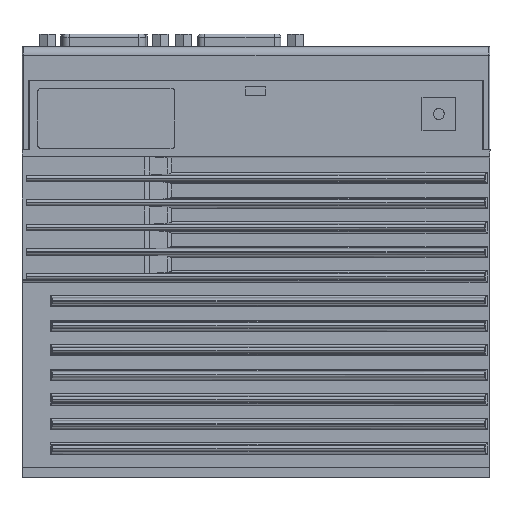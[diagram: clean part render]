
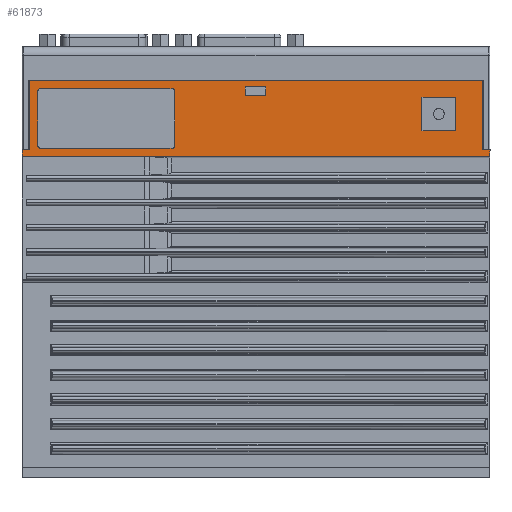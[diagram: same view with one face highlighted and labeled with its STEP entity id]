
A CAD part, front view. The second image highlights one B-rep face of the part: STEP entity #61873.
In plain terms, the highlighted planar face has unit normal (0, -1, 0) as drawn and (1, 0, 0) by its records, which use the part's own axes.
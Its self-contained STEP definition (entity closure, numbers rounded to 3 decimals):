
#57564=CARTESIAN_POINT('',(6.7,28.2,94.16));
#57565=VERTEX_POINT('',#57564);
#57572=CARTESIAN_POINT('',(6.7,162.741,94.16));
#57573=VERTEX_POINT('',#57572);
#57574=CARTESIAN_POINT('',(6.7,162.741,94.16));
#57575=DIRECTION('',(0.0,-1.0,0.0));
#57576=VECTOR('',#57575,134.541);
#57577=LINE('',#57574,#57576);
#57578=EDGE_CURVE('',#57573,#57565,#57577,.T.);
#57885=CARTESIAN_POINT('',(6.7,164.9,73.517));
#57886=VERTEX_POINT('',#57885);
#57893=CARTESIAN_POINT('',(6.7,164.9,71.569));
#57894=VERTEX_POINT('',#57893);
#57895=CARTESIAN_POINT('',(6.7,164.9,71.569));
#57896=DIRECTION('',(0.0,0.0,1.0));
#57897=VECTOR('',#57896,1.948);
#57898=LINE('',#57895,#57897);
#57899=EDGE_CURVE('',#57894,#57886,#57898,.T.);
#58691=CARTESIAN_POINT('',(6.7,25.9,71.569));
#58692=VERTEX_POINT('',#58691);
#58699=CARTESIAN_POINT('',(6.7,25.9,73.539));
#58700=VERTEX_POINT('',#58699);
#58701=CARTESIAN_POINT('',(6.7,25.9,73.539));
#58702=DIRECTION('',(0.0,0.0,-1.0));
#58703=VECTOR('',#58702,1.969);
#58704=LINE('',#58701,#58703);
#58705=EDGE_CURVE('',#58700,#58692,#58704,.T.);
#59587=CARTESIAN_POINT('',(6.7,164.9,71.569));
#59588=DIRECTION('',(0.0,-1.0,0.0));
#59589=VECTOR('',#59588,139.);
#59590=LINE('',#59587,#59589);
#59591=EDGE_CURVE('',#57894,#58692,#59590,.T.);
#61696=CARTESIAN_POINT('',(6.7,0.0,0.0));
#61697=DIRECTION('',(1.0,0.0,0.0));
#61698=DIRECTION('',(0.0,0.0,-1.0));
#61699=AXIS2_PLACEMENT_3D('',#61696,#61697,#61698);
#61700=PLANE('',#61699);
#61701=CARTESIAN_POINT('',(6.7,28.2,73.538));
#61702=VERTEX_POINT('',#61701);
#61703=CARTESIAN_POINT('',(6.7,25.9,73.539));
#61704=DIRECTION('',(0.0,1.,0.));
#61705=VECTOR('',#61704,2.3);
#61706=LINE('',#61703,#61705);
#61707=EDGE_CURVE('',#58700,#61702,#61706,.T.);
#61708=ORIENTED_EDGE('',*,*,#61707,.F.);
#61709=ORIENTED_EDGE('',*,*,#58705,.T.);
#61710=ORIENTED_EDGE('',*,*,#59591,.F.);
#61711=ORIENTED_EDGE('',*,*,#57899,.T.);
#61712=CARTESIAN_POINT('',(6.7,162.741,73.516));
#61713=VERTEX_POINT('',#61712);
#61714=CARTESIAN_POINT('',(6.7,162.741,73.516));
#61715=DIRECTION('',(0.0,1.,0.));
#61716=VECTOR('',#61715,2.159);
#61717=LINE('',#61714,#61716);
#61718=EDGE_CURVE('',#61713,#57886,#61717,.T.);
#61719=ORIENTED_EDGE('',*,*,#61718,.F.);
#61720=CARTESIAN_POINT('',(6.7,162.741,94.16));
#61721=DIRECTION('',(0.0,0.0,-1.0));
#61722=VECTOR('',#61721,20.644);
#61723=LINE('',#61720,#61722);
#61724=EDGE_CURVE('',#57573,#61713,#61723,.T.);
#61725=ORIENTED_EDGE('',*,*,#61724,.F.);
#61726=ORIENTED_EDGE('',*,*,#57578,.T.);
#61727=CARTESIAN_POINT('',(6.7,28.2,94.16));
#61728=DIRECTION('',(0.0,0.0,-1.0));
#61729=VECTOR('',#61728,20.622);
#61730=LINE('',#61727,#61729);
#61731=EDGE_CURVE('',#57565,#61702,#61730,.T.);
#61732=ORIENTED_EDGE('',*,*,#61731,.T.);
#61733=EDGE_LOOP('',(#61708,#61709,#61710,#61711,#61719,#61725,#61726,#61732));
#61734=FACE_OUTER_BOUND('',#61733,.T.);
#61735=CARTESIAN_POINT('',(6.7,154.7,79.16));
#61736=VERTEX_POINT('',#61735);
#61737=CARTESIAN_POINT('',(6.7,154.7,89.16));
#61738=VERTEX_POINT('',#61737);
#61739=CARTESIAN_POINT('',(6.7,154.7,79.16));
#61740=DIRECTION('',(0.0,0.0,1.0));
#61741=VECTOR('',#61740,10.);
#61742=LINE('',#61739,#61741);
#61743=EDGE_CURVE('',#61736,#61738,#61742,.T.);
#61744=ORIENTED_EDGE('',*,*,#61743,.F.);
#61745=CARTESIAN_POINT('',(6.7,144.7,79.16));
#61746=VERTEX_POINT('',#61745);
#61747=CARTESIAN_POINT('',(6.7,144.7,79.16));
#61748=DIRECTION('',(0.0,1.0,0.0));
#61749=VECTOR('',#61748,10.0);
#61750=LINE('',#61747,#61749);
#61751=EDGE_CURVE('',#61746,#61736,#61750,.T.);
#61752=ORIENTED_EDGE('',*,*,#61751,.F.);
#61753=CARTESIAN_POINT('',(6.7,144.7,89.16));
#61754=VERTEX_POINT('',#61753);
#61755=CARTESIAN_POINT('',(6.7,144.7,89.16));
#61756=DIRECTION('',(0.0,0.0,-1.0));
#61757=VECTOR('',#61756,10.);
#61758=LINE('',#61755,#61757);
#61759=EDGE_CURVE('',#61754,#61746,#61758,.T.);
#61760=ORIENTED_EDGE('',*,*,#61759,.F.);
#61761=CARTESIAN_POINT('',(6.7,154.7,89.16));
#61762=DIRECTION('',(0.0,-1.0,0.0));
#61763=VECTOR('',#61762,10.0);
#61764=LINE('',#61761,#61763);
#61765=EDGE_CURVE('',#61738,#61754,#61764,.T.);
#61766=ORIENTED_EDGE('',*,*,#61765,.F.);
#61767=EDGE_LOOP('',(#61744,#61752,#61760,#61766));
#61768=FACE_BOUND('',#61767,.T.);
#61769=CARTESIAN_POINT('',(6.7,98.25,89.76));
#61770=VERTEX_POINT('',#61769);
#61771=CARTESIAN_POINT('',(6.7,98.25,92.16));
#61772=VERTEX_POINT('',#61771);
#61773=CARTESIAN_POINT('',(6.7,98.25,89.76));
#61774=DIRECTION('',(0.0,0.0,1.0));
#61775=VECTOR('',#61774,2.4);
#61776=LINE('',#61773,#61775);
#61777=EDGE_CURVE('',#61770,#61772,#61776,.T.);
#61778=ORIENTED_EDGE('',*,*,#61777,.F.);
#61779=CARTESIAN_POINT('',(6.7,92.25,89.76));
#61780=VERTEX_POINT('',#61779);
#61781=CARTESIAN_POINT('',(6.7,92.25,89.76));
#61782=DIRECTION('',(0.0,1.0,0.0));
#61783=VECTOR('',#61782,6.);
#61784=LINE('',#61781,#61783);
#61785=EDGE_CURVE('',#61780,#61770,#61784,.T.);
#61786=ORIENTED_EDGE('',*,*,#61785,.F.);
#61787=CARTESIAN_POINT('',(6.7,92.25,92.16));
#61788=VERTEX_POINT('',#61787);
#61789=CARTESIAN_POINT('',(6.7,92.25,92.16));
#61790=DIRECTION('',(0.0,0.0,-1.0));
#61791=VECTOR('',#61790,2.4);
#61792=LINE('',#61789,#61791);
#61793=EDGE_CURVE('',#61788,#61780,#61792,.T.);
#61794=ORIENTED_EDGE('',*,*,#61793,.F.);
#61795=CARTESIAN_POINT('',(6.7,98.25,92.16));
#61796=DIRECTION('',(0.0,-1.0,0.0));
#61797=VECTOR('',#61796,6.);
#61798=LINE('',#61795,#61797);
#61799=EDGE_CURVE('',#61772,#61788,#61798,.T.);
#61800=ORIENTED_EDGE('',*,*,#61799,.F.);
#61801=EDGE_LOOP('',(#61778,#61786,#61794,#61800));
#61802=FACE_BOUND('',#61801,.T.);
#61803=CARTESIAN_POINT('',(6.7,31.15,91.61));
#61804=VERTEX_POINT('',#61803);
#61805=CARTESIAN_POINT('',(6.7,30.65,91.11));
#61806=VERTEX_POINT('',#61805);
#61807=CARTESIAN_POINT('',(6.7,31.15,91.11));
#61808=DIRECTION('',(1.0,0.0,0.0));
#61809=DIRECTION('',(0.0,0.0,-1.0));
#61810=AXIS2_PLACEMENT_3D('',#61807,#61808,#61809);
#61811=CIRCLE('',#61810,0.5);
#61812=EDGE_CURVE('',#61804,#61806,#61811,.T.);
#61813=ORIENTED_EDGE('',*,*,#61812,.F.);
#61814=CARTESIAN_POINT('',(6.7,70.75,91.61));
#61815=VERTEX_POINT('',#61814);
#61816=CARTESIAN_POINT('',(6.7,70.75,91.61));
#61817=DIRECTION('',(0.0,-1.0,0.0));
#61818=VECTOR('',#61817,39.6);
#61819=LINE('',#61816,#61818);
#61820=EDGE_CURVE('',#61815,#61804,#61819,.T.);
#61821=ORIENTED_EDGE('',*,*,#61820,.F.);
#61822=CARTESIAN_POINT('',(6.7,71.25,91.11));
#61823=VERTEX_POINT('',#61822);
#61824=CARTESIAN_POINT('',(6.7,70.75,91.11));
#61825=DIRECTION('',(1.0,0.0,0.0));
#61826=DIRECTION('',(0.0,0.0,1.0));
#61827=AXIS2_PLACEMENT_3D('',#61824,#61825,#61826);
#61828=CIRCLE('',#61827,0.5);
#61829=EDGE_CURVE('',#61823,#61815,#61828,.T.);
#61830=ORIENTED_EDGE('',*,*,#61829,.F.);
#61831=CARTESIAN_POINT('',(6.7,71.25,74.51));
#61832=VERTEX_POINT('',#61831);
#61833=CARTESIAN_POINT('',(6.7,71.25,74.51));
#61834=DIRECTION('',(0.0,0.0,1.0));
#61835=VECTOR('',#61834,16.6);
#61836=LINE('',#61833,#61835);
#61837=EDGE_CURVE('',#61832,#61823,#61836,.T.);
#61838=ORIENTED_EDGE('',*,*,#61837,.F.);
#61839=CARTESIAN_POINT('',(6.7,70.75,74.01));
#61840=VERTEX_POINT('',#61839);
#61841=CARTESIAN_POINT('',(6.7,70.75,74.51));
#61842=DIRECTION('',(1.0,0.0,0.0));
#61843=DIRECTION('',(0.0,0.0,-1.0));
#61844=AXIS2_PLACEMENT_3D('',#61841,#61842,#61843);
#61845=CIRCLE('',#61844,0.5);
#61846=EDGE_CURVE('',#61840,#61832,#61845,.T.);
#61847=ORIENTED_EDGE('',*,*,#61846,.F.);
#61848=CARTESIAN_POINT('',(6.7,31.15,74.01));
#61849=VERTEX_POINT('',#61848);
#61850=CARTESIAN_POINT('',(6.7,31.15,74.01));
#61851=DIRECTION('',(0.0,1.0,0.0));
#61852=VECTOR('',#61851,39.6);
#61853=LINE('',#61850,#61852);
#61854=EDGE_CURVE('',#61849,#61840,#61853,.T.);
#61855=ORIENTED_EDGE('',*,*,#61854,.F.);
#61856=CARTESIAN_POINT('',(6.7,30.65,74.51));
#61857=VERTEX_POINT('',#61856);
#61858=CARTESIAN_POINT('',(6.7,31.15,74.51));
#61859=DIRECTION('',(1.0,0.0,0.0));
#61860=DIRECTION('',(0.0,0.0,-1.0));
#61861=AXIS2_PLACEMENT_3D('',#61858,#61859,#61860);
#61862=CIRCLE('',#61861,0.5);
#61863=EDGE_CURVE('',#61857,#61849,#61862,.T.);
#61864=ORIENTED_EDGE('',*,*,#61863,.F.);
#61865=CARTESIAN_POINT('',(6.7,30.65,91.11));
#61866=DIRECTION('',(0.0,0.0,-1.0));
#61867=VECTOR('',#61866,16.6);
#61868=LINE('',#61865,#61867);
#61869=EDGE_CURVE('',#61806,#61857,#61868,.T.);
#61870=ORIENTED_EDGE('',*,*,#61869,.F.);
#61871=EDGE_LOOP('',(#61813,#61821,#61830,#61838,#61847,#61855,#61864,#61870));
#61872=FACE_BOUND('',#61871,.T.);
#61873=ADVANCED_FACE('',(#61734,#61768,#61802,#61872),#61700,.T.);
